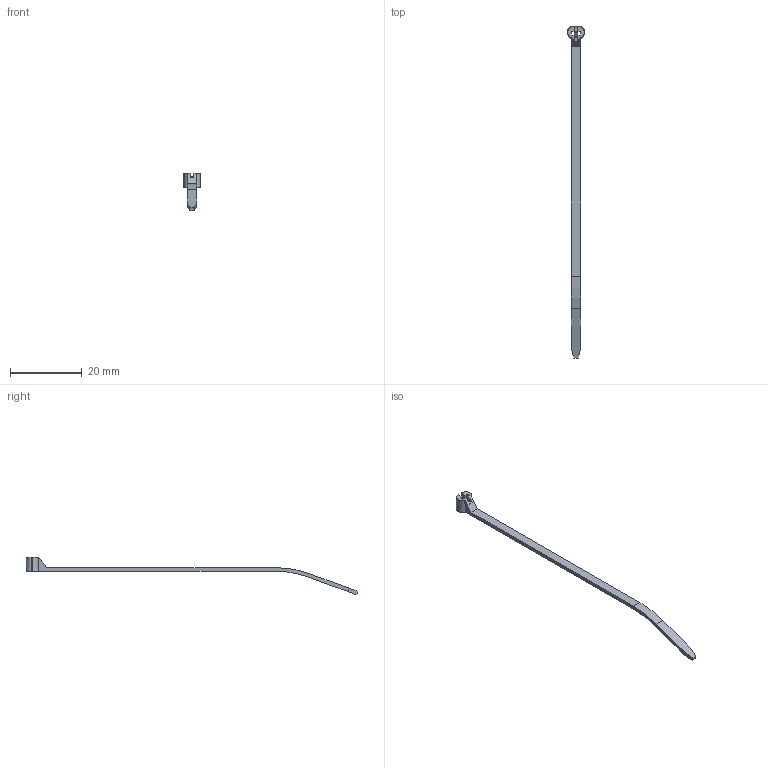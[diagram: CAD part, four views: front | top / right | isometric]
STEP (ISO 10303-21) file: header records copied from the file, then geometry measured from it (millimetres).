
FILE_DESCRIPTION (( 'STEP AP203' ), '1' );
FILE_NAME ('2909-0101-0100.STEP', '2018-12-20T16:00:40', ( '' ), ( '' ), 'SwSTEP 2.0', 'SolidWorks 2016', '' );
FILE_SCHEMA (( 'CONFIG_CONTROL_DESIGN' ));
Length unit declared in the file: inch
Products named in the file (1): 2909-0101-0100
Bounding box: 4.78 x 92.3 x 10.45 mm (x, y, z)
Volume: 275.7 mm3; surface area: 753.1 mm2
Topology: 2 solids, 2 shells, 39 faces, 108 edges, 72 vertices
Faces by surface type: plane 33, cone 4, cylinder 2
Entity records: 1329 total; most frequent: CARTESIAN_POINT 238, ORIENTED_EDGE 216, DIRECTION 198, EDGE_CURVE 108, VECTOR 94, LINE 94, VERTEX_POINT 72, AXIS2_PLACEMENT_3D 52
